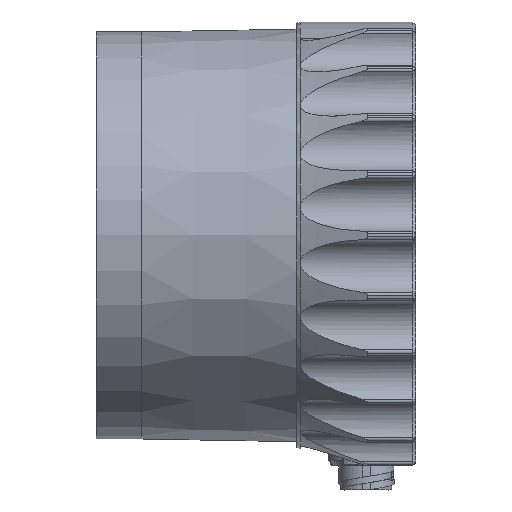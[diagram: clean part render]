
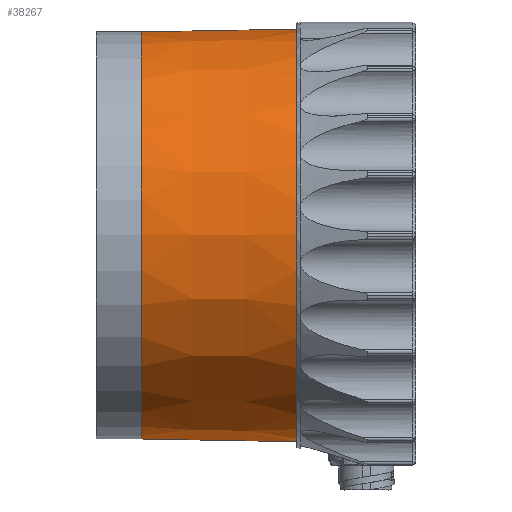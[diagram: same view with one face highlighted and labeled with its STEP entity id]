
A CAD part, left-side view. The second image highlights one B-rep face of the part: STEP entity #38267.
In plain terms, the highlighted conical face has half-angle 1 degrees and reference radius 37.194 mm.
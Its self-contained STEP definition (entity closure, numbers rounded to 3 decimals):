
#1141 = DIRECTION ( 'NONE',  ( 0., -1., -0.017 ) ) ;
#1199 = ORIENTED_EDGE ( 'NONE', *, *, #17387, .T. ) ;
#1890 = VECTOR ( 'NONE', #1141, 1000. ) ;
#1949 = DIRECTION ( 'NONE',  ( 0., 0., -1. ) ) ;
#2220 = VECTOR ( 'NONE', #13964, 1000. ) ;
#2262 = CARTESIAN_POINT ( 'NONE',  ( 0., 21.75, 0. ) ) ;
#2394 = DIRECTION ( 'NONE',  ( 0., -1., 0. ) ) ;
#2878 = CARTESIAN_POINT ( 'NONE',  ( 0., 50.1, -37.194 ) ) ;
#3519 = CIRCLE ( 'NONE', #13264, 37.194 ) ;
#3970 = DIRECTION ( 'NONE',  ( 0., -1., 0. ) ) ;
#5654 = CARTESIAN_POINT ( 'NONE',  ( 0., 50.1, 37.194 ) ) ;
#7635 = LINE ( 'NONE', #33881, #2220 ) ;
#8037 = CONICAL_SURFACE ( 'NONE', #10838, 37.194, 0.017 ) ;
#9010 = DIRECTION ( 'NONE',  ( 0., 0., -1. ) ) ;
#9119 = ORIENTED_EDGE ( 'NONE', *, *, #34428, .T. ) ;
#10838 = AXIS2_PLACEMENT_3D ( 'NONE', #25702, #3970, #14005 ) ;
#10965 = CARTESIAN_POINT ( 'NONE',  ( 0., 21.75, 37.689 ) ) ;
#13264 = AXIS2_PLACEMENT_3D ( 'NONE', #34963, #2394, #1949 ) ;
#13964 = DIRECTION ( 'NONE',  ( 0., -1., 0.017 ) ) ;
#14005 = DIRECTION ( 'NONE',  ( 0., 0., -1. ) ) ;
#15568 = EDGE_CURVE ( 'Defeatured_0_2+Defeatured_0_1+Defeatured_0_6+Defeatured_0_6', #40692, #29677, #21205, .T. ) ;
#16975 = VERTEX_POINT ( 'NONE', #5654 ) ;
#17387 = EDGE_CURVE ( 'Defeatured_0_1+Defeatured_0_6+Defeatured_0_325+Defeatured_0_2', #29070, #29677, #38473, .T. ) ;
#19759 = EDGE_CURVE ( 'Defeatured_0_6+Defeatured_0_1+Defeatured_0_324+Defeatured_0_2', #16975, #40692, #7635, .T. ) ;
#21205 = CIRCLE ( 'NONE', #26016, 37.689 ) ;
#23094 = FACE_OUTER_BOUND ( 'NONE', #38553, .T. ) ;
#24593 = CARTESIAN_POINT ( 'NONE',  ( 0., 50.1, -37.194 ) ) ;
#25702 = CARTESIAN_POINT ( 'NONE',  ( 0., 50.1, 0. ) ) ;
#26016 = AXIS2_PLACEMENT_3D ( 'NONE', #2262, #28746, #9010 ) ;
#28746 = DIRECTION ( 'NONE',  ( 0., -1., 0. ) ) ;
#29070 = VERTEX_POINT ( 'NONE', #2878 ) ;
#29677 = VERTEX_POINT ( 'NONE', #33517 ) ;
#33517 = CARTESIAN_POINT ( 'NONE',  ( 0., 21.75, -37.689 ) ) ;
#33881 = CARTESIAN_POINT ( 'NONE',  ( 0., 50.1, 37.194 ) ) ;
#34428 = EDGE_CURVE ( 'Defeatured_0_1+Defeatured_0_325+Defeatured_0_6+Defeatured_0_6', #16975, #29070, #3519, .T. ) ;
#34691 = ORIENTED_EDGE ( 'NONE', *, *, #15568, .F. ) ;
#34963 = CARTESIAN_POINT ( 'NONE',  ( 0., 50.1, 0. ) ) ;
#38267 = ADVANCED_FACE ( 'Defeatured_0_1', ( #23094 ), #8037, .T. ) ;
#38473 = LINE ( 'NONE', #24593, #1890 ) ;
#38553 = EDGE_LOOP ( 'NONE', ( #41752, #9119, #1199, #34691 ) ) ;
#40692 = VERTEX_POINT ( 'NONE', #10965 ) ;
#41752 = ORIENTED_EDGE ( 'NONE', *, *, #19759, .F. ) ;
